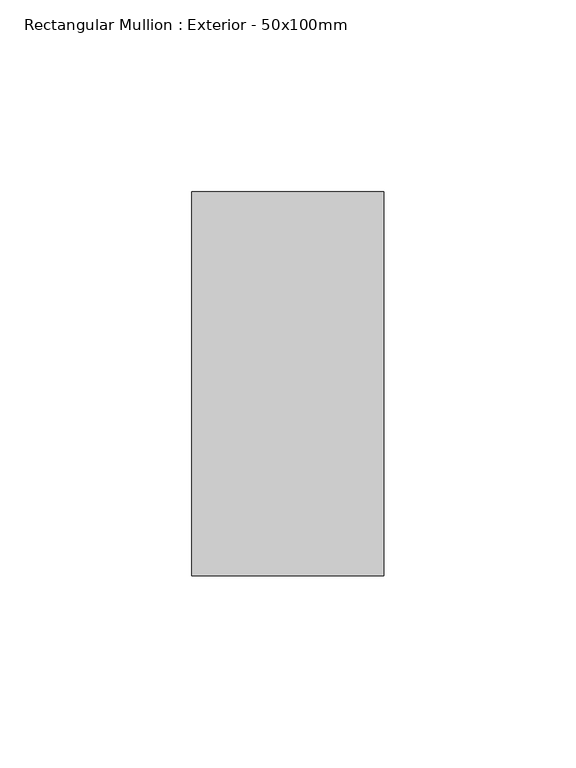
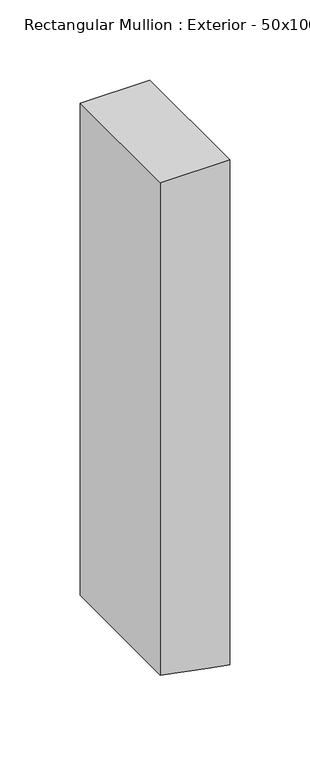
"""IFC4 building model written with IfcOpenShell, lengths in millimetres: member geometry, Rectangular Mullion : Exterior - 50x100mm."""

from ifc_helpers import new_model, si_unit, frame, origin, place, context, project, spatial, polyline, outline, extrude, source, transform, mapped, element, save


def rectangular_mullion_exterior_50x100mm_196fb89d(model_context):
    return source(origin(), model_context, "Body", "SweptSolid", [
        extrude(outline(polyline([(0.0, 25.0), (0.0, -25.0), (-374.8796545, -25.0), (-381.5936378, 9.5404498), (-384.5986699, 25.0), (0.0, 25.0)])), frame((0.0, 0.0, 0.0), z_axis=(0.0, 1.0, 0.0), x_axis=(0.0, 0.0, 1.0)), (0.0, 0.0, 1.0), 100.0),
    ])


if __name__ == "__main__":
    model = new_model("IFC4")
    model_context = context("Model", 3, world=origin())
    ifc_project = project(units=[si_unit("LENGTHUNIT", "METRE", prefix="MILLI")], contexts=[model_context])
    site = spatial("IfcSite", under=ifc_project)
    building = spatial("IfcBuilding", under=site)
    placement = place(None, origin())
    rectangular_mullion_exterior_50x100mm_shape = rectangular_mullion_exterior_50x100mm_196fb89d(model_context)
    element("IfcMember", 1, ObjectType="Rectangular Mullion : Exterior - 50x100mm", at=placement, inside=building, context=model_context, shape_type="MappedRepresentation", body=[
        mapped(rectangular_mullion_exterior_50x100mm_shape, transform((0.0, 0.0, 0.0), x_axis=(1.0, 0.0, 0.0), y_axis=(0.0, 1.0, 0.0), z_axis=(0.0, 0.0, 1.0))),
    ])
    save(model, "model.ifc")
